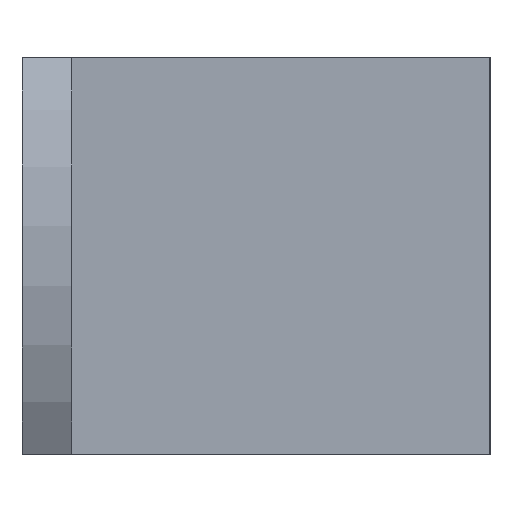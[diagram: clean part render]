
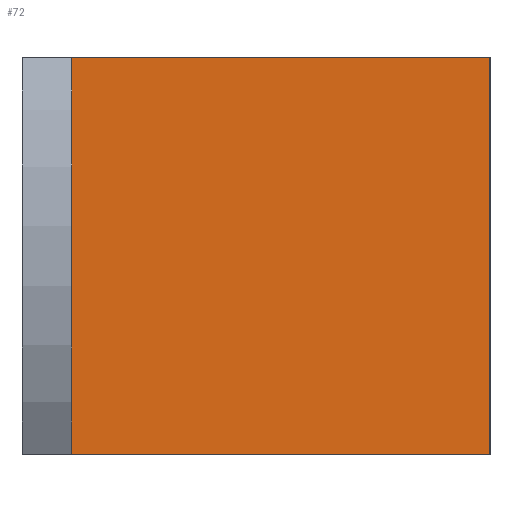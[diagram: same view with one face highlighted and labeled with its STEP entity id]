
A CAD part, left-side view. The second image highlights one B-rep face of the part: STEP entity #72.
In plain terms, the highlighted planar face has unit normal (-1, 0, 0).
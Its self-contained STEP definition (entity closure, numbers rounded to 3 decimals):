
#72 = ADVANCED_FACE( '', ( #157 ), #158, .F. );
#157 = FACE_OUTER_BOUND( '', #250, .T. );
#158 = PLANE( '', #251 );
#250 = EDGE_LOOP( '', ( #403, #404, #405, #406 ) );
#251 = AXIS2_PLACEMENT_3D( '', #407, #408, #409 );
#403 = ORIENTED_EDGE( '', *, *, #590, .T. );
#404 = ORIENTED_EDGE( '', *, *, #591, .F. );
#405 = ORIENTED_EDGE( '', *, *, #553, .F. );
#406 = ORIENTED_EDGE( '', *, *, #562, .T. );
#407 = CARTESIAN_POINT( '', ( -4., -3.5, 14. ) );
#408 = DIRECTION( '', ( 1., 0., 0. ) );
#409 = DIRECTION( '', ( 0., 0., -1. ) );
#553 = EDGE_CURVE( '', #660, #662, #663, .T. );
#562 = EDGE_CURVE( '', #660, #676, #678, .T. );
#590 = EDGE_CURVE( '', #676, #719, #720, .T. );
#591 = EDGE_CURVE( '', #662, #719, #721, .T. );
#660 = VERTEX_POINT( '', #810 );
#662 = VERTEX_POINT( '', #813 );
#663 = LINE( '', #814, #815 );
#676 = VERTEX_POINT( '', #831 );
#678 = LINE( '', #834, #835 );
#719 = VERTEX_POINT( '', #887 );
#720 = LINE( '', #888, #889 );
#721 = LINE( '', #890, #891 );
#810 = CARTESIAN_POINT( '', ( -4., -3.5, 14. ) );
#813 = CARTESIAN_POINT( '', ( -4., -33., 14. ) );
#814 = CARTESIAN_POINT( '', ( -4., -3.5, 14. ) );
#815 = VECTOR( '', #962, 1000. );
#831 = CARTESIAN_POINT( '', ( -4., -3.5, -14. ) );
#834 = CARTESIAN_POINT( '', ( -4., -3.5, 14. ) );
#835 = VECTOR( '', #976, 1000. );
#887 = CARTESIAN_POINT( '', ( -4., -33., -14. ) );
#888 = CARTESIAN_POINT( '', ( -4., -3.5, -14. ) );
#889 = VECTOR( '', #1012, 1000. );
#890 = CARTESIAN_POINT( '', ( -4., -33., 14. ) );
#891 = VECTOR( '', #1013, 1000. );
#962 = DIRECTION( '', ( 0., -1., 0. ) );
#976 = DIRECTION( '', ( 0., 0., -1. ) );
#1012 = DIRECTION( '', ( 0., -1., 0. ) );
#1013 = DIRECTION( '', ( 0., 0., -1. ) );
